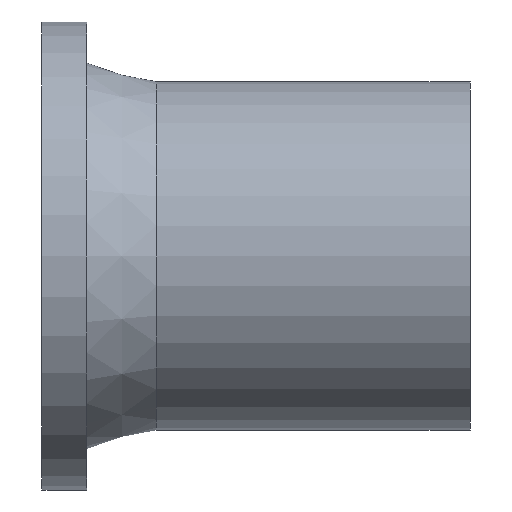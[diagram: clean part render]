
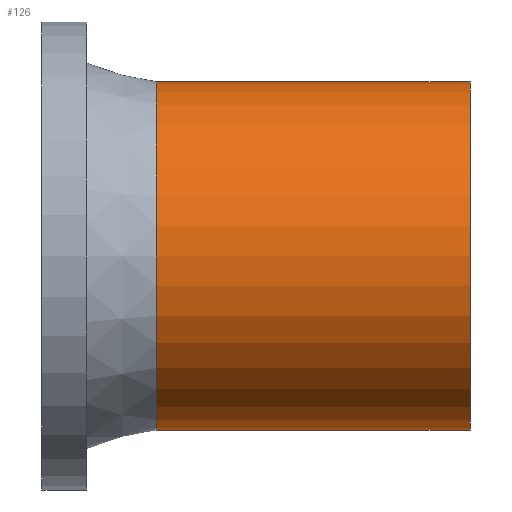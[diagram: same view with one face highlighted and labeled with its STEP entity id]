
A CAD part, front view. The second image highlights one B-rep face of the part: STEP entity #126.
In plain terms, the highlighted cylindrical face has radius 70 mm (diameter 140 mm), a full revolution.
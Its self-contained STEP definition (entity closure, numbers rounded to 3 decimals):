
#77=CARTESIAN_POINT('',(46.,70.,0.));
#78=VERTEX_POINT('',#77);
#79=CARTESIAN_POINT('',(46.,0.,0.));
#80=DIRECTION('',(1.,0.,0.));
#81=DIRECTION('',(0.,1.,0.));
#82=AXIS2_PLACEMENT_3D('',#79,#80,#81);
#83=CIRCLE('',#82,70.);
#84=EDGE_CURVE('',#78,#78,#83,.T.);
#102=CARTESIAN_POINT('',(172.,70.,0.));
#103=VERTEX_POINT('',#102);
#104=CARTESIAN_POINT('',(172.,0.,0.));
#105=DIRECTION('',(1.,0.,0.));
#106=DIRECTION('',(0.,1.,0.));
#107=AXIS2_PLACEMENT_3D('',#104,#105,#106);
#108=CIRCLE('',#107,70.);
#109=EDGE_CURVE('',#103,#103,#108,.T.);
#110=ORIENTED_EDGE('',*,*,#109,.F.);
#111=CARTESIAN_POINT('',(109.,70.,0.));
#112=DIRECTION('',(1.,0.,0.));
#113=VECTOR('',#112,70.);
#114=LINE('',#111,#113);
#115=EDGE_CURVE('',#78,#103,#114,.T.);
#116=ORIENTED_EDGE('',*,*,#115,.F.);
#117=ORIENTED_EDGE('',*,*,#84,.T.);
#118=ORIENTED_EDGE('',*,*,#115,.T.);
#119=EDGE_LOOP('',(#110,#116,#117,#118));
#120=FACE_OUTER_BOUND('',#119,.T.);
#121=CARTESIAN_POINT('',(109.,0.,0.));
#122=DIRECTION('',(1.,0.,0.));
#123=DIRECTION('',(0.,1.,0.));
#124=AXIS2_PLACEMENT_3D('',#121,#122,#123);
#125=CYLINDRICAL_SURFACE('',#124,70.);
#126=ADVANCED_FACE('',(#120),#125,.T.);
